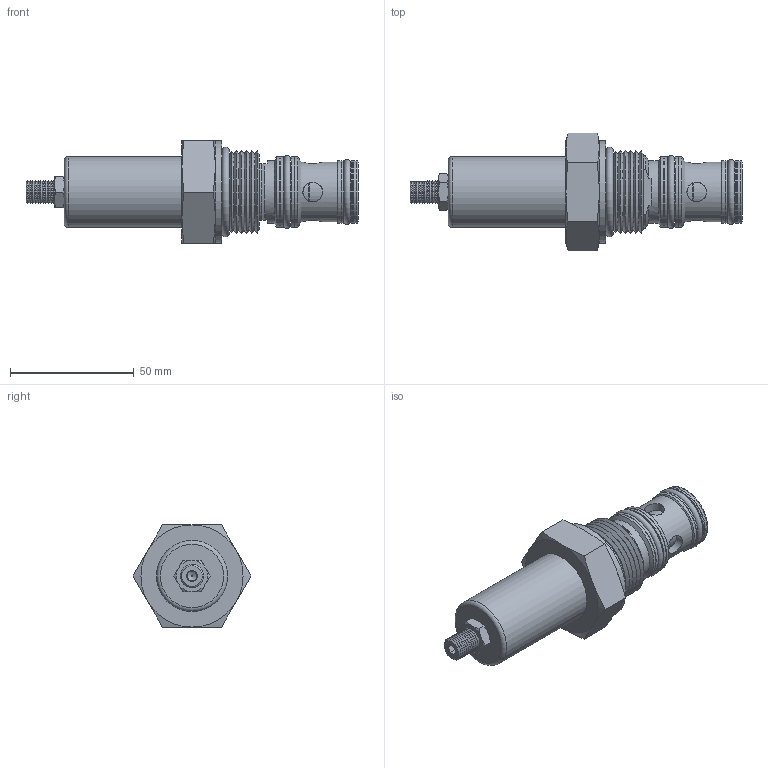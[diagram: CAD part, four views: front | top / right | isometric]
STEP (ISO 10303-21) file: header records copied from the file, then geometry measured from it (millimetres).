
FILE_DESCRIPTION((''),'2;1');
FILE_NAME('Q:\Delta CADD Insertion Codes\3D Solid models\Mechanical Valves\DWG\SLPWB00.stp','2012-12-06T13:26:16',('Dan'),(''),'Autodesk Inventor 2012','Autodesk Inventor 2012','');
FILE_SCHEMA(('AUTOMOTIVE_DESIGN { 1 0 10303 214 1 1 1 1 }'));
Length unit declared in the file: inch
Products named in the file (9): Assembly21; Part282; Part284; Part286; Part288; Part290; Part292; Part294; Part296
Assembly tree (8 placements, depth 2):
  Assembly21
    Part282
    Part284
    Part286
    Part288
    Part290
    Part292
    Part294
    Part296
Bounding box: 134.11 x 47.66 x 41.27 mm (x, y, z)
Volume: 85183.4 mm3; surface area: 22526.1 mm2
Topology: 8 solids, 8 shells, 172 faces, 360 edges, 212 vertices
Faces by surface type: cone 76, plane 57, cylinder 34, torus 5
Full cylindrical faces by diameter (mm): 3.962 x1, 7.925 x4, 9.525 x2, 10.109 x1, 15.875 x1, 16.612 x2, 17.374 x1, 17.479 x1, 21.006 x1, 21.031 x2, 24.13 x1, 24.181 x1, 24.206 x2, 25.349 x4, 25.4 x1, 28.524 x4, 28.702 x1, 30.328 x1, 41.275 x1
Entity records: 4563 total; most frequent: CARTESIAN_POINT 1095, DIRECTION 715, ORIENTED_EDGE 558, AXIS2_PLACEMENT_3D 336, EDGE_CURVE 279, EDGE_LOOP 273, VERTEX_POINT 201, FACE_OUTER_BOUND 172
